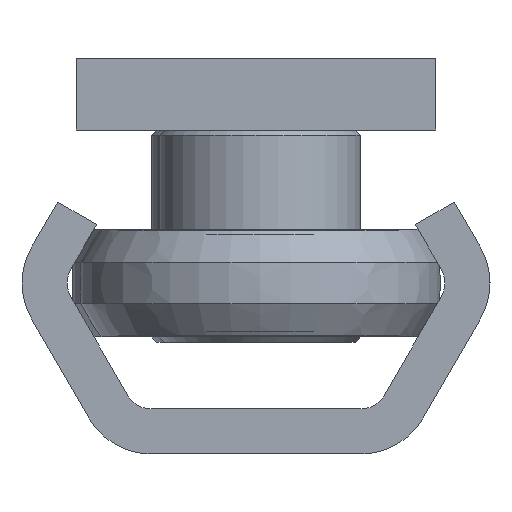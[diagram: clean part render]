
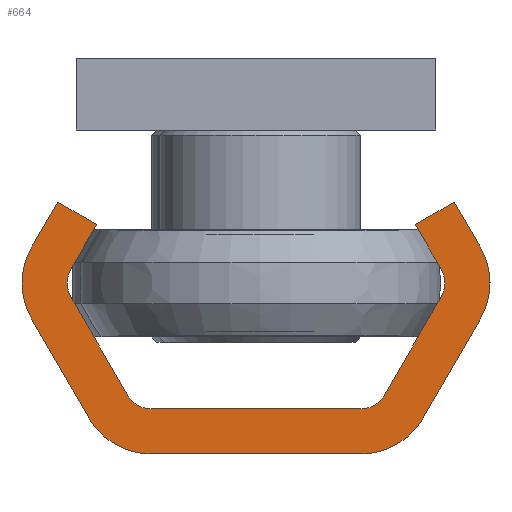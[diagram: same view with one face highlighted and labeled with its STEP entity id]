
A CAD part, left-side view. The second image highlights one B-rep face of the part: STEP entity #664.
In plain terms, the highlighted planar face has unit normal (-1, 0, 0).
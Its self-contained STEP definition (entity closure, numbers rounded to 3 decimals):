
#664 = ADVANCED_FACE( '', ( #1335 ), #1336, .F. );
#1335 = FACE_OUTER_BOUND( '', #2168, .T. );
#1336 = PLANE( '', #2169 );
#2168 = EDGE_LOOP( '', ( #3337, #3338, #3339, #3340, #3341, #3342, #3343, #3344, #3345, #3346, #3347, #3348, #3349, #3350, #3351, #3352, #3353, #3354, #3355, #3356 ) );
#2169 = AXIS2_PLACEMENT_3D( '', #3357, #3358, #3359 );
#3337 = ORIENTED_EDGE( '', *, *, #3830, .F. );
#3338 = ORIENTED_EDGE( '', *, *, #3651, .F. );
#3339 = ORIENTED_EDGE( '', *, *, #3691, .F. );
#3340 = ORIENTED_EDGE( '', *, *, #3737, .F. );
#3341 = ORIENTED_EDGE( '', *, *, #3450, .F. );
#3342 = ORIENTED_EDGE( '', *, *, #3872, .F. );
#3343 = ORIENTED_EDGE( '', *, *, #3745, .F. );
#3344 = ORIENTED_EDGE( '', *, *, #3774, .T. );
#3345 = ORIENTED_EDGE( '', *, *, #3472, .F. );
#3346 = ORIENTED_EDGE( '', *, *, #3705, .T. );
#3347 = ORIENTED_EDGE( '', *, *, #3858, .F. );
#3348 = ORIENTED_EDGE( '', *, *, #3594, .T. );
#3349 = ORIENTED_EDGE( '', *, *, #3647, .F. );
#3350 = ORIENTED_EDGE( '', *, *, #3683, .T. );
#3351 = ORIENTED_EDGE( '', *, *, #3838, .F. );
#3352 = ORIENTED_EDGE( '', *, *, #3579, .F. );
#3353 = ORIENTED_EDGE( '', *, *, #3842, .F. );
#3354 = ORIENTED_EDGE( '', *, *, #3517, .F. );
#3355 = ORIENTED_EDGE( '', *, *, #3733, .F. );
#3356 = ORIENTED_EDGE( '', *, *, #3847, .F. );
#3357 = CARTESIAN_POINT( '', ( 0., -5.825, -4. ) );
#3358 = DIRECTION( '', ( 1., 0., 0. ) );
#3359 = DIRECTION( '', ( 0., 0., -1. ) );
#3450 = EDGE_CURVE( '', #3918, #3919, #3920, .T. );
#3472 = EDGE_CURVE( '', #3956, #3957, #3958, .T. );
#3517 = EDGE_CURVE( '', #4031, #4032, #4033, .T. );
#3579 = EDGE_CURVE( '', #4130, #4131, #4132, .T. );
#3594 = EDGE_CURVE( '', #4155, #4156, #4157, .T. );
#3647 = EDGE_CURVE( '', #4231, #4156, #4232, .T. );
#3651 = EDGE_CURVE( '', #4237, #4238, #4239, .T. );
#3683 = EDGE_CURVE( '', #4231, #4290, #4291, .T. );
#3691 = EDGE_CURVE( '', #4300, #4237, #4301, .T. );
#3705 = EDGE_CURVE( '', #3956, #4321, #4322, .T. );
#3733 = EDGE_CURVE( '', #4361, #4031, #4362, .T. );
#3737 = EDGE_CURVE( '', #3919, #4300, #4367, .T. );
#3745 = EDGE_CURVE( '', #4378, #4379, #4380, .T. );
#3774 = EDGE_CURVE( '', #4378, #3957, #4425, .T. );
#3830 = EDGE_CURVE( '', #4238, #4501, #4502, .T. );
#3838 = EDGE_CURVE( '', #4131, #4290, #4512, .T. );
#3842 = EDGE_CURVE( '', #4032, #4130, #4516, .T. );
#3847 = EDGE_CURVE( '', #4501, #4361, #4520, .T. );
#3858 = EDGE_CURVE( '', #4155, #4321, #4533, .T. );
#3872 = EDGE_CURVE( '', #4379, #3918, #4547, .T. );
#3918 = VERTEX_POINT( '', #4594 );
#3919 = VERTEX_POINT( '', #4595 );
#3920 = LINE( '', #4596, #4597 );
#3956 = VERTEX_POINT( '', #4641 );
#3957 = VERTEX_POINT( '', #4642 );
#3958 = LINE( '', #4643, #4644 );
#4031 = VERTEX_POINT( '', #4732 );
#4032 = VERTEX_POINT( '', #4733 );
#4033 = CIRCLE( '', #4734, 4. );
#4130 = VERTEX_POINT( '', #4859 );
#4131 = VERTEX_POINT( '', #4860 );
#4132 = LINE( '', #4861, #4862 );
#4155 = VERTEX_POINT( '', #4888 );
#4156 = VERTEX_POINT( '', #4889 );
#4157 = CIRCLE( '', #4890, 1.5 );
#4231 = VERTEX_POINT( '', #4986 );
#4232 = LINE( '', #4987, #4988 );
#4237 = VERTEX_POINT( '', #4995 );
#4238 = VERTEX_POINT( '', #4996 );
#4239 = CIRCLE( '', #4997, 4. );
#4290 = VERTEX_POINT( '', #5050 );
#4291 = CIRCLE( '', #5051, 1.5 );
#4300 = VERTEX_POINT( '', #5064 );
#4301 = LINE( '', #5065, #5066 );
#4321 = VERTEX_POINT( '', #5091 );
#4322 = CIRCLE( '', #5092, 1.5 );
#4361 = VERTEX_POINT( '', #5133 );
#4362 = LINE( '', #5134, #5135 );
#4367 = CIRCLE( '', #5142, 4. );
#4378 = VERTEX_POINT( '', #5153 );
#4379 = VERTEX_POINT( '', #5154 );
#4380 = LINE( '', #5155, #5156 );
#4425 = CIRCLE( '', #5206, 1.5 );
#4501 = VERTEX_POINT( '', #5288 );
#4502 = LINE( '', #5289, #5290 );
#4512 = LINE( '', #5303, #5304 );
#4516 = LINE( '', #5309, #5310 );
#4520 = CIRCLE( '', #5315, 4. );
#4533 = LINE( '', #5328, #5329 );
#4547 = LINE( '', #5345, #5346 );
#4594 = CARTESIAN_POINT( '', ( 0., 11.021, -14. ) );
#4595 = CARTESIAN_POINT( '', ( 0., 12.464, -11.5 ) );
#4596 = CARTESIAN_POINT( '', ( 0., 11.021, -14. ) );
#4597 = VECTOR( '', #5401, 1000. );
#4641 = CARTESIAN_POINT( '', ( 0., 7.124, -3.25 ) );
#4642 = CARTESIAN_POINT( '', ( 0., 10.299, -8.75 ) );
#4643 = CARTESIAN_POINT( '', ( 0., 7.124, -3.25 ) );
#4644 = VECTOR( '', #5431, 1000. );
#4732 = CARTESIAN_POINT( '', ( 0., -12.464, -7.5 ) );
#4733 = CARTESIAN_POINT( '', ( 0., -12.464, -11.5 ) );
#4734 = AXIS2_PLACEMENT_3D( '', #5504, #5505, #5506 );
#4859 = CARTESIAN_POINT( '', ( 0., -11.021, -14. ) );
#4860 = CARTESIAN_POINT( '', ( 0., -8.856, -12.75 ) );
#4861 = CARTESIAN_POINT( '', ( 0., -11.021, -14. ) );
#4862 = VECTOR( '', #5583, 1000. );
#4888 = CARTESIAN_POINT( '', ( 0., -5.825, -2.5 ) );
#4889 = CARTESIAN_POINT( '', ( 0., -7.124, -3.25 ) );
#4890 = AXIS2_PLACEMENT_3D( '', #5605, #5606, #5607 );
#4986 = CARTESIAN_POINT( '', ( 0., -10.299, -8.75 ) );
#4987 = CARTESIAN_POINT( '', ( 0., -10.299, -8.75 ) );
#4988 = VECTOR( '', #5678, 1000. );
#4995 = CARTESIAN_POINT( '', ( 0., 9.289, -2. ) );
#4996 = CARTESIAN_POINT( '', ( 0., 5.825, 0. ) );
#4997 = AXIS2_PLACEMENT_3D( '', #5681, #5682, #5683 );
#5050 = CARTESIAN_POINT( '', ( 0., -10.299, -10.25 ) );
#5051 = AXIS2_PLACEMENT_3D( '', #5749, #5750, #5751 );
#5064 = CARTESIAN_POINT( '', ( 0., 12.464, -7.5 ) );
#5065 = CARTESIAN_POINT( '', ( 0., 12.464, -7.5 ) );
#5066 = VECTOR( '', #5759, 1000. );
#5091 = CARTESIAN_POINT( '', ( 0., 5.825, -2.5 ) );
#5092 = AXIS2_PLACEMENT_3D( '', #5774, #5775, #5776 );
#5133 = CARTESIAN_POINT( '', ( 0., -9.289, -2. ) );
#5134 = CARTESIAN_POINT( '', ( 0., -9.289, -2. ) );
#5135 = VECTOR( '', #5815, 1000. );
#5142 = AXIS2_PLACEMENT_3D( '', #5818, #5819, #5820 );
#5153 = CARTESIAN_POINT( '', ( 0., 10.299, -10.25 ) );
#5154 = CARTESIAN_POINT( '', ( 0., 8.856, -12.75 ) );
#5155 = CARTESIAN_POINT( '', ( 0., 10.299, -10.25 ) );
#5156 = VECTOR( '', #5833, 1000. );
#5206 = AXIS2_PLACEMENT_3D( '', #5881, #5882, #5883 );
#5288 = CARTESIAN_POINT( '', ( 0., -5.825, 0. ) );
#5289 = CARTESIAN_POINT( '', ( 0., 5.825, 0. ) );
#5290 = VECTOR( '', #5953, 1000. );
#5303 = CARTESIAN_POINT( '', ( 0., -8.856, -12.75 ) );
#5304 = VECTOR( '', #5960, 1000. );
#5309 = CARTESIAN_POINT( '', ( 0., -12.464, -11.5 ) );
#5310 = VECTOR( '', #5962, 1000. );
#5315 = AXIS2_PLACEMENT_3D( '', #5964, #5965, #5966 );
#5328 = CARTESIAN_POINT( '', ( 0., -5.825, -2.5 ) );
#5329 = VECTOR( '', #5976, 1000. );
#5345 = CARTESIAN_POINT( '', ( 0., 8.856, -12.75 ) );
#5346 = VECTOR( '', #5982, 1000. );
#5401 = DIRECTION( '', ( 0., 0.5, 0.866 ) );
#5431 = DIRECTION( '', ( 0., 0.5, -0.866 ) );
#5504 = CARTESIAN_POINT( '', ( 0., -9., -9.5 ) );
#5505 = DIRECTION( '', ( 1., 0., 0. ) );
#5506 = DIRECTION( '', ( 0., 0., -1. ) );
#5583 = DIRECTION( '', ( 0., 0.866, 0.5 ) );
#5605 = CARTESIAN_POINT( '', ( 0., -5.825, -4. ) );
#5606 = DIRECTION( '', ( 1., 0., 0. ) );
#5607 = DIRECTION( '', ( 0., 0., -1. ) );
#5678 = DIRECTION( '', ( 0., 0.5, 0.866 ) );
#5681 = CARTESIAN_POINT( '', ( 0., 5.825, -4. ) );
#5682 = DIRECTION( '', ( 1., 0., 0. ) );
#5683 = DIRECTION( '', ( 0., 0., -1. ) );
#5749 = CARTESIAN_POINT( '', ( 0., -9., -9.5 ) );
#5750 = DIRECTION( '', ( 1., 0., 0. ) );
#5751 = DIRECTION( '', ( 0., 0., -1. ) );
#5759 = DIRECTION( '', ( 0., -0.5, 0.866 ) );
#5774 = CARTESIAN_POINT( '', ( 0., 5.825, -4. ) );
#5775 = DIRECTION( '', ( 1., 0., 0. ) );
#5776 = DIRECTION( '', ( 0., 0., -1. ) );
#5815 = DIRECTION( '', ( 0., -0.5, -0.866 ) );
#5818 = CARTESIAN_POINT( '', ( 0., 9., -9.5 ) );
#5819 = DIRECTION( '', ( 1., 0., 0. ) );
#5820 = DIRECTION( '', ( 0., 0., -1. ) );
#5833 = DIRECTION( '', ( 0., -0.5, -0.866 ) );
#5881 = CARTESIAN_POINT( '', ( 0., 9., -9.5 ) );
#5882 = DIRECTION( '', ( 1., 0., 0. ) );
#5883 = DIRECTION( '', ( 0., 0., -1. ) );
#5953 = DIRECTION( '', ( 0., -1., 0. ) );
#5960 = DIRECTION( '', ( 0., -0.5, 0.866 ) );
#5962 = DIRECTION( '', ( 0., 0.5, -0.866 ) );
#5964 = CARTESIAN_POINT( '', ( 0., -5.825, -4. ) );
#5965 = DIRECTION( '', ( 1., 0., 0. ) );
#5966 = DIRECTION( '', ( 0., 0., -1. ) );
#5976 = DIRECTION( '', ( 0., 1., 0. ) );
#5982 = DIRECTION( '', ( 0., 0.866, -0.5 ) );
